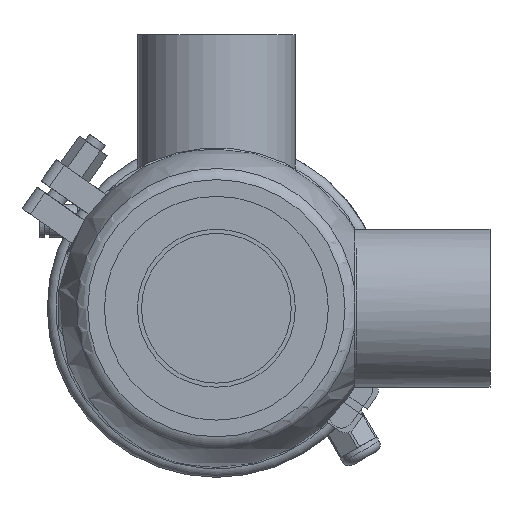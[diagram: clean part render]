
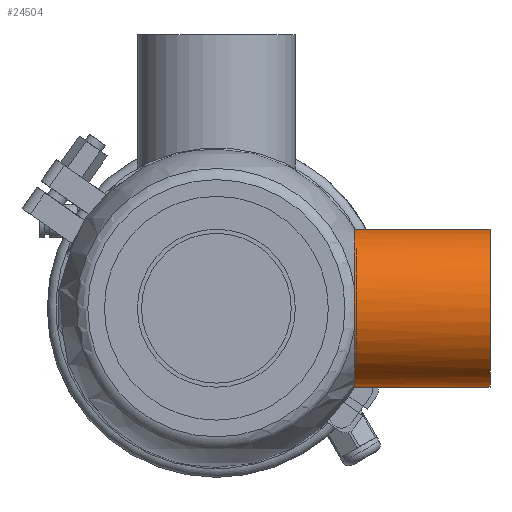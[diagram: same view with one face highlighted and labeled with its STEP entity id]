
A CAD part, front view. The second image highlights one B-rep face of the part: STEP entity #24504.
In plain terms, the highlighted cylindrical face has radius 31.75 mm (diameter 63.5 mm), a full revolution.
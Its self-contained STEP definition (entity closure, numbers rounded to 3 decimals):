
#383 = FACE_OUTER_BOUND ( 'NONE', #14832, .T. ) ;
#678 = FACE_OUTER_BOUND ( 'NONE', #47567, .T. ) ;
#2164 = AXIS2_PLACEMENT_3D ( 'NONE', #13426, #42806, #56759 ) ;
#2381 = DIRECTION ( 'NONE',  ( 0., 0., 1. ) ) ;
#3967 = ORIENTED_EDGE ( 'NONE', *, *, #42317, .T. ) ;
#6426 = CARTESIAN_POINT ( 'NONE',  ( 110., 0., 0. ) ) ;
#6563 = CARTESIAN_POINT ( 'NONE',  ( 55.569, -30.657, 8.258 ) ) ;
#8914 = CARTESIAN_POINT ( 'NONE',  ( 110., 0., 31.75 ) ) ;
#13426 = CARTESIAN_POINT ( 'NONE',  ( 55.569, 0., 0. ) ) ;
#14604 = DIRECTION ( 'NONE',  ( -1., 0., 0. ) ) ;
#14832 = EDGE_LOOP ( 'NONE', ( #33892, #3967 ) ) ;
#18781 = VERTEX_POINT ( 'NONE', #19934 ) ;
#18918 = CIRCLE ( 'NONE', #2164, 31.75 ) ;
#19230 = DIRECTION ( 'NONE',  ( 0., 0., 1. ) ) ;
#19934 = CARTESIAN_POINT ( 'NONE',  ( 55.569, -30.657, 8.258 ) ) ;
#20445 = CIRCLE ( 'NONE', #55077, 31.75 ) ;
#20779 = CARTESIAN_POINT ( 'NONE',  ( 55.569, -31.022, 6.904 ) ) ;
#24504 = ADVANCED_FACE ( 'NONE', ( #383, #678 ), #38065, .T. ) ;
#24641 = B_SPLINE_CURVE_WITH_KNOTS ( 'NONE', 3,
 ( #6563, #20779, #58557, #26015, #34948, #53627, #45237, #53936, #39630, #39931, #40241, #25729 ),
 .UNSPECIFIED., .F., .F.,
 ( 4, 2, 2, 2, 2, 4 ),
 ( 0., 0.004, 0.008, 0.01, 0.012, 0.017 ),
 .UNSPECIFIED. ) ;
#24944 = AXIS2_PLACEMENT_3D ( 'NONE', #57033, #14604, #19230 ) ;
#25289 = DIRECTION ( 'NONE',  ( -1., 0., 0. ) ) ;
#25729 = CARTESIAN_POINT ( 'NONE',  ( 55.569, -30.657, -8.258 ) ) ;
#26015 = CARTESIAN_POINT ( 'NONE',  ( 55.468, -31.657, 2.799 ) ) ;
#26101 = VERTEX_POINT ( 'NONE', #55204 ) ;
#30807 = ORIENTED_EDGE ( 'NONE', *, *, #35417, .T. ) ;
#33892 = ORIENTED_EDGE ( 'NONE', *, *, #61014, .T. ) ;
#34948 = CARTESIAN_POINT ( 'NONE',  ( 55.442, -31.749, 1.419 ) ) ;
#35417 = EDGE_CURVE ( 'NONE', #51314, #51314, #20445, .T. ) ;
#38065 = CYLINDRICAL_SURFACE ( 'NONE', #24944, 31.75 ) ;
#39630 = CARTESIAN_POINT ( 'NONE',  ( 55.483, -31.569, -3.456 ) ) ;
#39931 = CARTESIAN_POINT ( 'NONE',  ( 55.532, -31.295, -5.534 ) ) ;
#40241 = CARTESIAN_POINT ( 'NONE',  ( 55.569, -31.022, -6.903 ) ) ;
#42317 = EDGE_CURVE ( 'NONE', #18781, #26101, #24641, .T. ) ;
#42806 = DIRECTION ( 'NONE',  ( 1., 0., 0. ) ) ;
#45237 = CARTESIAN_POINT ( 'NONE',  ( 55.447, -31.729, -1.361 ) ) ;
#47567 = EDGE_LOOP ( 'NONE', ( #30807 ) ) ;
#51314 = VERTEX_POINT ( 'NONE', #8914 ) ;
#53627 = CARTESIAN_POINT ( 'NONE',  ( 55.442, -31.751, -0.664 ) ) ;
#53936 = CARTESIAN_POINT ( 'NONE',  ( 55.468, -31.638, -2.759 ) ) ;
#55077 = AXIS2_PLACEMENT_3D ( 'NONE', #6426, #25289, #2381 ) ;
#55204 = CARTESIAN_POINT ( 'NONE',  ( 55.569, -30.657, -8.258 ) ) ;
#56759 = DIRECTION ( 'NONE',  ( 0., 0., 1. ) ) ;
#57033 = CARTESIAN_POINT ( 'NONE',  ( 0., 0., 0. ) ) ;
#58557 = CARTESIAN_POINT ( 'NONE',  ( 55.532, -31.293, 5.541 ) ) ;
#61014 = EDGE_CURVE ( 'NONE', #26101, #18781, #18918, .T. ) ;
